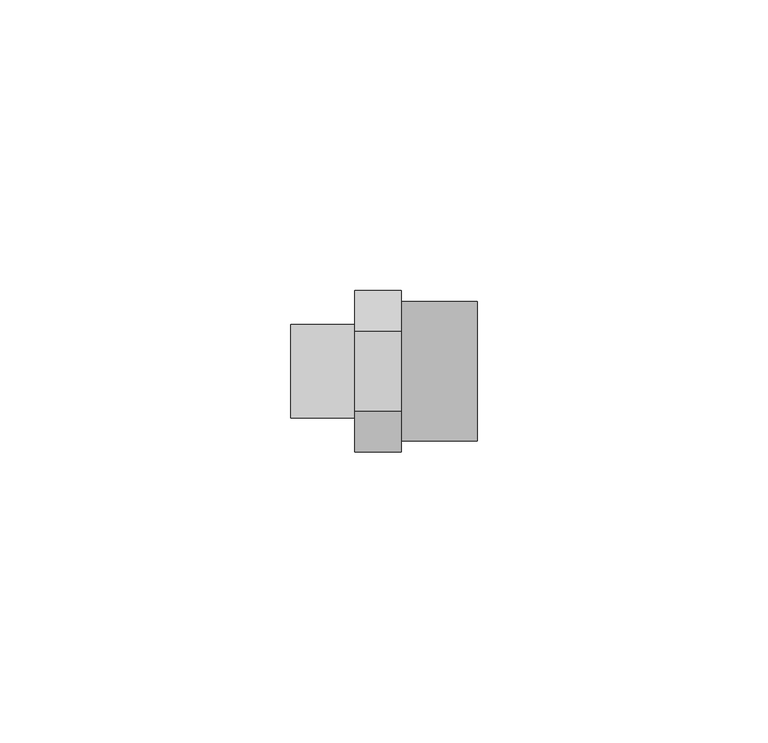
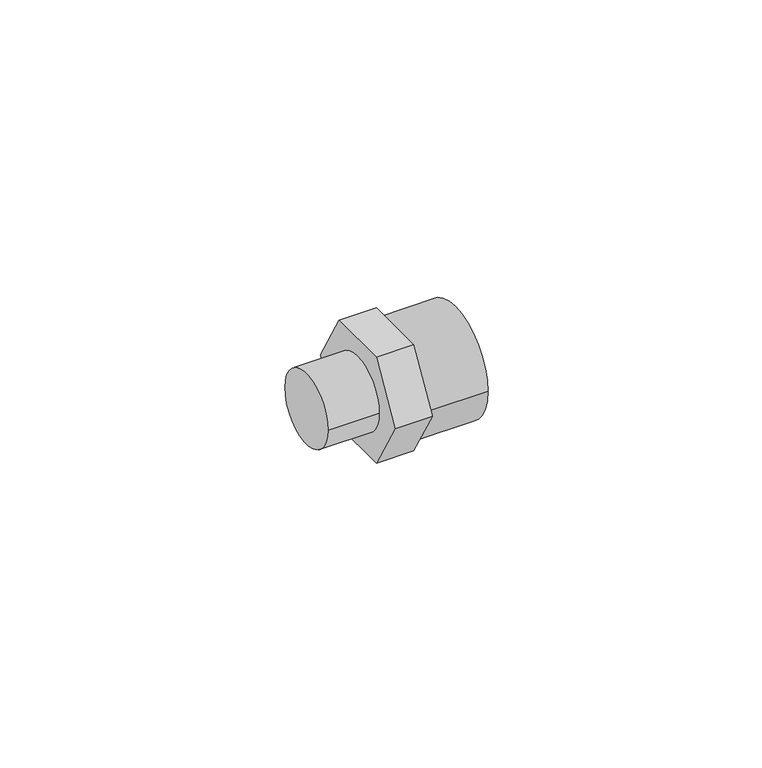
"""IFC4 building model written with IfcOpenShell, lengths in millimetres: pipe fitting geometry, 01011006 : Mamelons de réductio MxF."""

import ifcopenshell
import ifcopenshell.guid

model = None  # the IFC model being written
_history = None  # IfcOwnerHistory: only IFC2X3 demands one
_inside = {}  # id of a spatial element -> (the spatial element, [elements in it])
_under = {}  # id of a project, library or spatial element -> (it, [spatial elements below it])
_declared = {}  # id of a project -> (the project, [libraries it declares])
_typed = {}  # id of a type object -> (the type object, [elements of that type])
_made_of = {}  # id of a material, layer set ... -> (it, [elements and type objects made of it])


def new_model(schema):
    """Start an empty IFC model of exactly this schema.

    Asked for "IFC4X3", IfcOpenShell would pick the latest addendum, in which some entities
    have other attributes; the version numbers below select the first issue.
    IFC2X3 requires an IfcOwnerHistory on every rooted entity: one is made here for all.
    """
    global model, _history
    if schema == "IFC4X3":
        model = ifcopenshell.file(schema_version=(4, 3, 0, 0))
    else:
        model = ifcopenshell.file(schema=schema)
    _inside.clear()
    _under.clear()
    _declared.clear()
    _typed.clear()
    _made_of.clear()
    _history = None
    if model.schema == "IFC2X3":
        org = make("IfcOrganization", Name="unknown")
        user = make(
            "IfcPersonAndOrganization",
            ThePerson=make("IfcPerson", FamilyName="unknown"),
            TheOrganization=org,
        )
        app = make(
            "IfcApplication",
            ApplicationDeveloper=org,
            Version="unknown",
            ApplicationFullName="unknown",
            ApplicationIdentifier="unknown",
        )
        _history = make(
            "IfcOwnerHistory",
            OwningUser=user,
            OwningApplication=app,
            ChangeAction="ADDED",
            CreationDate=0,
        )
    return model


def make(cls, **values):
    """One entity of the class cls with the attributes given. An attribute that is None is left unset."""
    return model.create_entity(
        cls, **{name: value for name, value in values.items() if value is not None}
    )


def rooted(cls, **values):
    """An entity with a GlobalId (a new one), such as an element, a storey or a relation."""
    return make(cls, GlobalId=ifcopenshell.guid.new(), OwnerHistory=_history, **values)


def si_unit(unit_type, name, prefix=None):
    """IfcSIUnit, for example si_unit("LENGTHUNIT", "METRE", prefix="MILLI")."""
    return make("IfcSIUnit", UnitType=unit_type, Prefix=prefix, Name=name)


def assignment(units):
    """IfcUnitAssignment: the units of a project."""
    return None if units is None else make("IfcUnitAssignment", Units=units)


def point(xyz):
    """IfcCartesianPoint."""
    return None if xyz is None else make("IfcCartesianPoint", Coordinates=xyz)


def direction(xyz):
    """IfcDirection."""
    return None if xyz is None else make("IfcDirection", DirectionRatios=xyz)


def frame(location, z_axis=None, x_axis=None):
    """IfcAxis2Placement3D, a coordinate frame: its origin and axes. An axis left out is left unset."""
    return make(
        "IfcAxis2Placement3D",
        Location=point(location),
        Axis=direction(z_axis),
        RefDirection=direction(x_axis),
    )


def frame_2d(location, x_axis=None):
    """IfcAxis2Placement2D, a coordinate frame in the plane: its origin and x axis."""
    return make(
        "IfcAxis2Placement2D", Location=point(location), RefDirection=direction(x_axis)
    )


def origin():
    """The frame at (0, 0, 0) with its axes left unset."""
    return frame((0.0, 0.0, 0.0))


def origin_2d():
    """The frame at (0, 0) in the plane with its x axis left unset."""
    return frame_2d((0.0, 0.0))


def place(relative_to, where):
    """IfcLocalPlacement: puts the frame where relative to a parent placement (None: the world)."""
    return make(
        "IfcLocalPlacement", PlacementRelTo=relative_to, RelativePlacement=where
    )


def context(
    kind, dimensions, precision=None, world=None, true_north=None, identifier=None
):
    """IfcGeometricRepresentationContext, for example the 3D "Model" context."""
    return make(
        "IfcGeometricRepresentationContext",
        ContextIdentifier=identifier,
        ContextType=kind,
        CoordinateSpaceDimension=dimensions,
        Precision=precision,
        WorldCoordinateSystem=world,
        TrueNorth=true_north,
    )


def project(units=None, contexts=None):
    """IfcProject with its units and contexts."""
    return rooted(
        "IfcProject",
        Name="project",
        RepresentationContexts=contexts,
        UnitsInContext=assignment(units),
    )


def spatial(cls, under=None, at=None, **own):
    """A site, building, storey or space (cls), placed at a placement, below another one or the project."""
    s = rooted(cls, ObjectPlacement=at, **own)
    if under is not None:
        _under.setdefault(under.id(), (under, []))[1].append(s)
    return s


def polyline(points):
    """IfcPolyline through the points."""
    return make("IfcPolyline", Points=[point(p) for p in points])


def circle_curve(where, radius):
    """IfcCircle in the frame where."""
    return make("IfcCircle", Position=where, Radius=radius)


def trimmed(basis, trim1, trim2, sense, master):
    """IfcTrimmedCurve: the piece of a basis curve between two trims."""
    return make(
        "IfcTrimmedCurve",
        BasisCurve=basis,
        Trim1=trim1,
        Trim2=trim2,
        SenseAgreement=sense,
        MasterRepresentation=master,
    )


def segment(curve, same_sense, transition):
    """IfcCompositeCurveSegment."""
    return make(
        "IfcCompositeCurveSegment",
        Transition=transition,
        SameSense=same_sense,
        ParentCurve=curve,
    )


def composite_curve(segments, self_intersect=None):
    """IfcCompositeCurve: segments joined end to end."""
    return make("IfcCompositeCurve", Segments=segments, SelfIntersect=self_intersect)


def outline(outer, holes=None, kind="AREA"):
    """IfcArbitraryClosedProfileDef: a profile drawn as a closed curve; with holes, ...WithVoids."""
    if holes is None:
        return make("IfcArbitraryClosedProfileDef", ProfileType=kind, OuterCurve=outer)
    return make(
        "IfcArbitraryProfileDefWithVoids",
        ProfileType=kind,
        OuterCurve=outer,
        InnerCurves=holes,
    )


def extrude(swept, where, along, depth):
    """IfcExtrudedAreaSolid: the profile swept, set in the frame where, extruded along a direction by depth."""
    return make(
        "IfcExtrudedAreaSolid",
        SweptArea=swept,
        Position=where,
        ExtrudedDirection=direction(along),
        Depth=depth,
    )


def shape(context_of_items, identifier, shape_type, items):
    """IfcShapeRepresentation: the items that make up one representation, for example the "Body"."""
    return make(
        "IfcShapeRepresentation",
        ContextOfItems=context_of_items,
        RepresentationIdentifier=identifier,
        RepresentationType=shape_type,
        Items=items,
    )


def source(mapping_origin, context_of_items, identifier, shape_type, items):
    """IfcRepresentationMap: a shape defined once, which mapped items show again and again."""
    return make(
        "IfcRepresentationMap",
        MappingOrigin=mapping_origin,
        MappedRepresentation=shape(context_of_items, identifier, shape_type, items),
    )


def transform(
    local_origin,
    x_axis=None,
    y_axis=None,
    z_axis=None,
    scale=None,
    scale2=None,
    scale3=None,
    uniform=True,
):
    """IfcCartesianTransformationOperator3D, or its non-uniform kind. x_axis, y_axis, z_axis: its Axis1, 2, 3."""
    if uniform:
        return make(
            "IfcCartesianTransformationOperator3D",
            Axis1=direction(x_axis),
            Axis2=direction(y_axis),
            LocalOrigin=point(local_origin),
            Scale=scale,
            Axis3=direction(z_axis),
        )
    return make(
        "IfcCartesianTransformationOperator3DnonUniform",
        Axis1=direction(x_axis),
        Axis2=direction(y_axis),
        LocalOrigin=point(local_origin),
        Scale=scale,
        Axis3=direction(z_axis),
        Scale2=scale2,
        Scale3=scale3,
    )


def mapped(mapping_source, mapping_target):
    """IfcMappedItem: shows the shape of a source again, moved by a transform."""
    return make(
        "IfcMappedItem", MappingSource=mapping_source, MappingTarget=mapping_target
    )


def made_of(thing, what):
    """Note that an element or type object is made of a material, layer set ...; save() writes the relation."""
    if what is not None:
        _made_of.setdefault(what.id(), (what, []))[1].append(thing)
    return thing


def element(
    cls,
    number,
    at=None,
    inside=None,
    cuts=None,
    type_object=None,
    material=None,
    context=None,
    identifier="Body",
    shape_type=None,
    held_by="IfcProductDefinitionShape",
    body=None,
    shapes=None,
    **own,
):
    """One element of the class cls, such as IfcWall. Its Tag is "e" and its number.

    at: its placement. inside: the storey or other place that contains it. cuts: it is an
    opening in that element (IfcRelVoidsElement). A single representation is given by context,
    identifier, shape_type and body (its items); several are given by shapes. held_by: the class
    of the entity that holds the representations. save() writes the other relations.
    """
    e = rooted(cls, Tag="e%d" % number, ObjectPlacement=at, **own)
    if body is not None:
        shapes = [shape(context, identifier, shape_type, body)]
    if shapes is not None:
        e.Representation = make(held_by, Representations=shapes)
    if inside is not None:
        _inside.setdefault(inside.id(), (inside, []))[1].append(e)
    if cuts is not None:
        rooted(
            "IfcRelVoidsElement", RelatingBuildingElement=cuts, RelatedOpeningElement=e
        )
    if type_object is not None:
        _typed.setdefault(type_object.id(), (type_object, []))[1].append(e)
    return made_of(e, material)


def aggregate(whole, parts):
    """IfcRelAggregates: a whole, such as a stair, and the parts it consists of."""
    return rooted("IfcRelAggregates", RelatingObject=whole, RelatedObjects=parts)


def save(model, path):
    """Write the relations noted so far, then the file.

    IfcRelAggregates (storeys below a building ...), IfcRelContainedInSpatialStructure (elements
    in a storey), IfcRelDefinesByType, IfcRelAssociatesMaterial and IfcRelDeclares: one each for
    every whole, place, type object, material and project.
    """
    for whole, parts in _under.values():
        aggregate(whole, parts)
    for where, things in _inside.values():
        rooted(
            "IfcRelContainedInSpatialStructure",
            RelatedElements=things,
            RelatingStructure=where,
        )
    for kind, things in _typed.values():
        rooted("IfcRelDefinesByType", RelatedObjects=things, RelatingType=kind)
    for what, things in _made_of.values():
        rooted("IfcRelAssociatesMaterial", RelatedObjects=things, RelatingMaterial=what)
    for by, libraries in _declared.values():
        rooted("IfcRelDeclares", RelatingContext=by, RelatedDefinitions=libraries)
    model.write(path)


def pipe_fitting_79ac7e7a(model_context):
    return source(origin(), model_context, "Body", "SweptSolid", [
        extrude(outline(composite_curve([segment(trimmed(circle_curve(origin_2d(), 8.0), [point((8.0, 0.0))], [point((-8.0, 0.0))], False, "CARTESIAN"), True, "CONTINUOUS"), segment(trimmed(circle_curve(origin_2d(), 8.0), [point((-8.0, 0.0))], [point((8.0, 0.0))], False, "CARTESIAN"), True, "CONTINUOUS")], self_intersect=False)), frame((0.0, 0.0, 0.0), z_axis=(1.0, 0.0, 0.0), x_axis=(0.0, 1.0, 0.0)), (0.0, 0.0, 1.0), 11.0),
        extrude(outline(polyline([(-6.9282032, 12.0), (6.9282032, 12.0), (13.8564065, 0.0), (6.9282032, -12.0), (-6.9282032, -12.0), (-13.8564065, 0.0), (-6.9282032, 12.0)])), frame((11.0, 0.0, 0.0), z_axis=(1.0, 0.0, 0.0), x_axis=(0.0, 1.0, 0.0)), (0.0, 0.0, 1.0), 8.0),
        extrude(outline(composite_curve([segment(trimmed(circle_curve(origin_2d(), 12.0), [point((-12.0, 0.0))], [point((12.0, 0.0))], False, "CARTESIAN"), True, "CONTINUOUS"), segment(trimmed(circle_curve(origin_2d(), 12.0), [point((12.0, 0.0))], [point((-12.0, 0.0))], False, "CARTESIAN"), True, "CONTINUOUS")], self_intersect=False)), frame((19.0, 0.0, 0.0), z_axis=(1.0, 0.0, 0.0), x_axis=(0.0, 1.0, 0.0)), (0.0, 0.0, 1.0), 13.0),
    ])


if __name__ == "__main__":
    model = new_model("IFC4")
    model_context = context("Model", 3, world=origin())
    ifc_project = project(units=[si_unit("LENGTHUNIT", "METRE", prefix="MILLI")], contexts=[model_context])
    site = spatial("IfcSite", under=ifc_project)
    building = spatial("IfcBuilding", under=site)
    placement = place(None, origin())
    pipe_fitting_shape = pipe_fitting_79ac7e7a(model_context)
    element("IfcPipeFitting", 1, ObjectType="01011006 : Mamelons de réductio MxF", at=placement, inside=building, context=model_context, shape_type="MappedRepresentation", body=[
        mapped(pipe_fitting_shape, transform((0.0, 0.0, 0.0), x_axis=(1.0, 0.0, 0.0), y_axis=(0.0, 1.0, 0.0), z_axis=(0.0, 0.0, 1.0))),
    ])
    save(model, "model.ifc")
